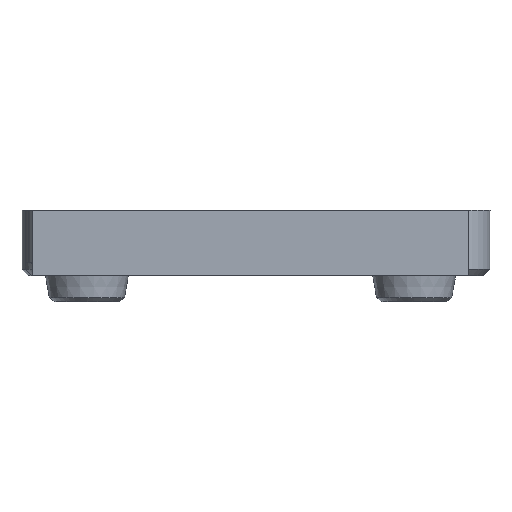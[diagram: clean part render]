
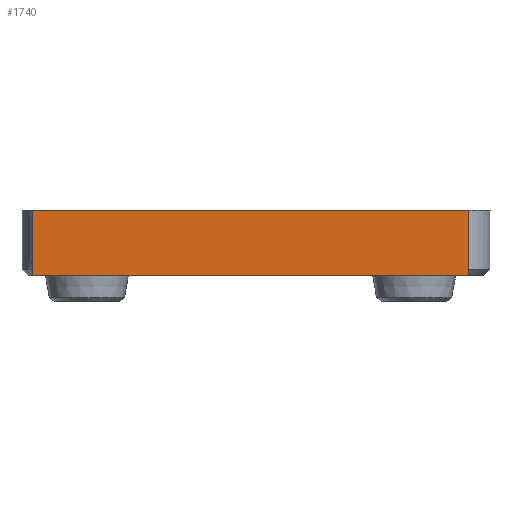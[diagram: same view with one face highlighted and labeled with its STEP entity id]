
A CAD part, front view. The second image highlights one B-rep face of the part: STEP entity #1740.
In plain terms, the highlighted planar face has unit normal (0, -1, 0).
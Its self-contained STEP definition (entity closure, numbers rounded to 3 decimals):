
#108=PLANE('',#1920);
#228=FACE_OUTER_BOUND('',#339,.T.);
#339=EDGE_LOOP('',(#1611,#1612,#1613,#1614));
#352=LINE('',#2497,#506);
#362=LINE('',#2538,#516);
#492=LINE('',#3061,#646);
#494=LINE('',#3065,#648);
#506=VECTOR('',#1971,10.);
#516=VECTOR('',#2005,10.);
#646=VECTOR('',#2427,10.);
#648=VECTOR('',#2433,10.);
#747=VERTEX_POINT('',#2494);
#748=VERTEX_POINT('',#2496);
#766=VERTEX_POINT('',#2535);
#767=VERTEX_POINT('',#2537);
#902=EDGE_CURVE('',#747,#748,#352,.T.);
#922=EDGE_CURVE('',#767,#766,#362,.T.);
#1123=EDGE_CURVE('',#766,#748,#492,.T.);
#1125=EDGE_CURVE('',#767,#747,#494,.T.);
#1611=ORIENTED_EDGE('',*,*,#922,.T.);
#1612=ORIENTED_EDGE('',*,*,#1123,.T.);
#1613=ORIENTED_EDGE('',*,*,#902,.F.);
#1614=ORIENTED_EDGE('',*,*,#1125,.F.);
#1740=ADVANCED_FACE('',(#228),#108,.T.);
#1920=AXIS2_PLACEMENT_3D('',#3064,#2431,#2432);
#1971=DIRECTION('',(1.,0.,0.));
#2005=DIRECTION('',(1.,0.,0.));
#2427=DIRECTION('',(0.,0.,1.));
#2431=DIRECTION('center_axis',(0.,-1.,0.));
#2432=DIRECTION('ref_axis',(1.,0.,0.));
#2433=DIRECTION('',(0.,0.,1.));
#2494=CARTESIAN_POINT('',(-40.,-42.533,48.875));
#2496=CARTESIAN_POINT('',(0.,-42.533,48.875));
#2497=CARTESIAN_POINT('',(-40.,-42.533,48.875));
#2535=CARTESIAN_POINT('',(0.,-42.533,42.875));
#2537=CARTESIAN_POINT('',(-40.,-42.533,42.875));
#2538=CARTESIAN_POINT('',(-40.,-42.533,42.875));
#3061=CARTESIAN_POINT('',(0.,-42.533,42.875));
#3064=CARTESIAN_POINT('Origin',(-40.,-42.533,42.875));
#3065=CARTESIAN_POINT('',(-40.,-42.533,42.875));
